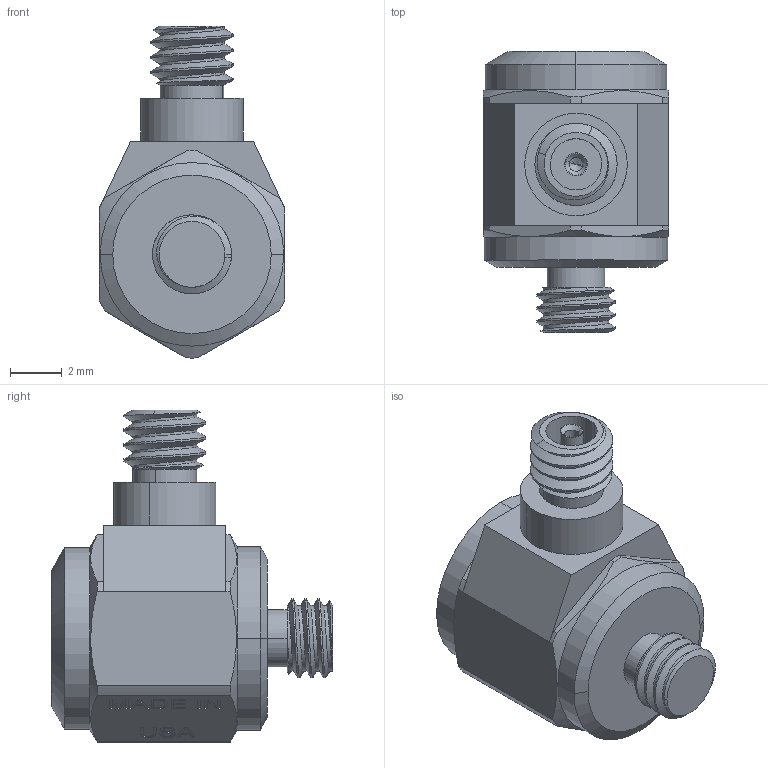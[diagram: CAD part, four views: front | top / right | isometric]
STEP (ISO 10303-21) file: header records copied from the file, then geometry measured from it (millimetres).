
FILE_DESCRIPTION (( 'STEP AP214' ), '1' );
FILE_NAME ('CAD_3035B.STEP', '2017-04-06T21:31:11', ( 'Dytran' ), ( '' ), 'SwSTEP 2.0', 'SolidWorks 2016', '' );
FILE_SCHEMA (( 'AUTOMOTIVE_DESIGN' ));
Length unit declared in the file: inch
Products named in the file (1): CAD_3035B
Bounding box: 7.14 x 10.85 x 12.81 mm (x, y, z)
Volume: 417 mm3; surface area: 423.5 mm2
Topology: 1 solids, 2 shells, 447 faces, 1199 edges, 791 vertices
Faces by surface type: plane 256, bspline 125, cylinder 42, cone 24
Entity records: 26147 total; most frequent: CARTESIAN_POINT 10085, ORIENTED_EDGE 2394, DIRECTION 1623, EDGE_CURVE 1197, VECTOR 813, LINE 813, VERTEX_POINT 791, EDGE_LOOP 486
